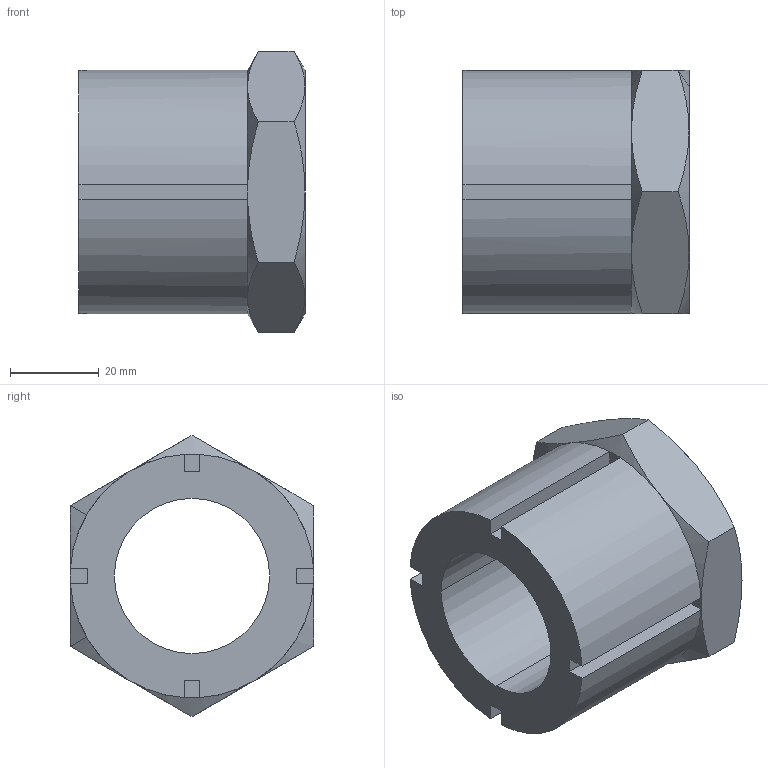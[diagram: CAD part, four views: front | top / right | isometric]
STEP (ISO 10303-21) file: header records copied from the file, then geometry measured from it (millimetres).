
FILE_DESCRIPTION((''),'2;1');
FILE_NAME('C:\WIXROYD\Positioning\3840\3840W035.stp','2003-01-09T15:39:41',('Administrator'),(''),'Autodesk Inventor (tm) 5.0','Autodesk Inventor (tm) 5.0','');
FILE_SCHEMA(('CONFIG_CONTROL_DESIGN'));
Length unit declared in the file: millimetre
Products named in the file (1): 3840W035
Bounding box: 51 x 55 x 63.51 mm (x, y, z)
Volume: 72902.5 mm3; surface area: 18889.4 mm2
Topology: 1 solids, 1 shells, 48 faces, 114 edges, 68 vertices
Faces by surface type: plane 24, cone 16, cylinder 8
Entity records: 1437 total; most frequent: CARTESIAN_POINT 279, ORIENTED_EDGE 228, DIRECTION 224, EDGE_CURVE 114, AXIS2_PLACEMENT_3D 85, VERTEX_POINT 68, VECTOR 54, LINE 54
